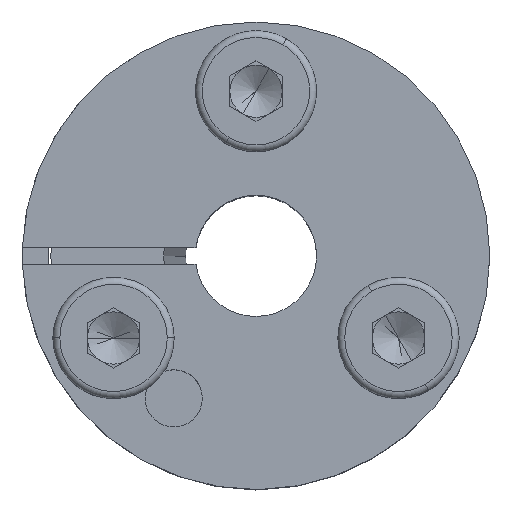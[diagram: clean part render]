
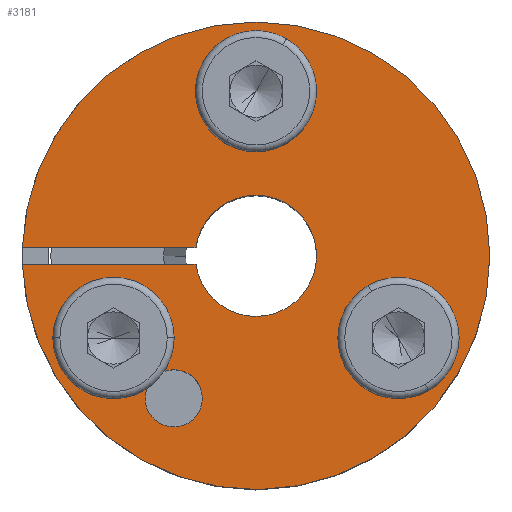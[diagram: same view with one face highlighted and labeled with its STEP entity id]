
A CAD part, top view. The second image highlights one B-rep face of the part: STEP entity #3181.
In plain terms, the highlighted planar face has unit normal (0, 0, 1).
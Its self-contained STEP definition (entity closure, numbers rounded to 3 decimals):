
#53 = AXIS2_PLACEMENT_3D ( 'NONE', #3878, #924, #4385 ) ;
#79 = CARTESIAN_POINT ( 'NONE',  ( -6.75, 11.691, 6.984 ) ) ;
#87 = DIRECTION ( 'NONE',  ( -0.5, 0.866, 0. ) ) ;
#165 = AXIS2_PLACEMENT_3D ( 'NONE', #3473, #521, #3954 ) ;
#189 = CIRCLE ( 'NONE', #808, 2.5 ) ;
#210 = VERTEX_POINT ( 'NONE', #3276 ) ;
#268 = CARTESIAN_POINT ( 'NONE',  ( -22., 0.5, 6.984 ) ) ;
#273 = ORIENTED_EDGE ( 'NONE', *, *, #4767, .F. ) ;
#319 = ORIENTED_EDGE ( 'NONE', *, *, #2082, .F. ) ;
#338 = ORIENTED_EDGE ( 'NONE', *, *, #829, .F. ) ;
#355 = CARTESIAN_POINT ( 'NONE',  ( -13.491, 0.5, 6.984 ) ) ;
#373 = AXIS2_PLACEMENT_3D ( 'NONE', #1455, #4913, #1938 ) ;
#471 = DIRECTION ( 'NONE',  ( -0.5, 0.866, 0. ) ) ;
#502 = CIRCLE ( 'NONE', #5465, 13.5 ) ;
#521 = DIRECTION ( 'NONE',  ( 0., 0., 1. ) ) ;
#747 = FACE_BOUND ( 'NONE', #2046, .T. ) ;
#808 = AXIS2_PLACEMENT_3D ( 'NONE', #4081, #1134, #4591 ) ;
#829 = EDGE_CURVE ( 'NONE', #210, #2972, #5618, .T. ) ;
#924 = DIRECTION ( 'NONE',  ( 0., 0., 1. ) ) ;
#962 = EDGE_CURVE ( 'NONE', #6328, #5812, #2056, .T. ) ;
#971 = AXIS2_PLACEMENT_3D ( 'NONE', #6378, #3437, #471 ) ;
#972 = CARTESIAN_POINT ( 'NONE',  ( 1.75, -3.031, 6.984 ) ) ;
#979 = DIRECTION ( 'NONE',  ( 0., 0., 1. ) ) ;
#1073 = CIRCLE ( 'NONE', #2154, 13.5 ) ;
#1113 = DIRECTION ( 'NONE',  ( 0., 0., 1. ) ) ;
#1134 = DIRECTION ( 'NONE',  ( 0., 0., 1. ) ) ;
#1136 = AXIS2_PLACEMENT_3D ( 'NONE', #1995, #5946, #2999 ) ;
#1153 = DIRECTION ( 'NONE',  ( 0., 0., 1. ) ) ;
#1235 = CIRCLE ( 'NONE', #165, 2.5 ) ;
#1312 = CARTESIAN_POINT ( 'NONE',  ( 0., 9.5, 6.984 ) ) ;
#1364 = DIRECTION ( 'NONE',  ( 0., 0., 1. ) ) ;
#1373 = CIRCLE ( 'NONE', #53, 1.65 ) ;
#1455 = CARTESIAN_POINT ( 'NONE',  ( 0., 0., 6.984 ) ) ;
#1486 = EDGE_LOOP ( 'NONE', ( #6023, #4660 ) ) ;
#1515 = CARTESIAN_POINT ( 'NONE',  ( -1.75, 3.031, 6.984 ) ) ;
#1617 = CARTESIAN_POINT ( 'NONE',  ( -3.464, 0.5, 6.984 ) ) ;
#1633 = CARTESIAN_POINT ( 'NONE',  ( -8.227, -4.75, 6.984 ) ) ;
#1793 = DIRECTION ( 'NONE',  ( 1., 0., 0. ) ) ;
#1805 = AXIS2_PLACEMENT_3D ( 'NONE', #2570, #6013, #3075 ) ;
#1854 = CARTESIAN_POINT ( 'NONE',  ( 9.477, -6.915, 6.984 ) ) ;
#1888 = VERTEX_POINT ( 'NONE', #1617 ) ;
#1891 = ORIENTED_EDGE ( 'NONE', *, *, #1979, .T. ) ;
#1933 = EDGE_CURVE ( 'NONE', #4611, #3937, #2110, .T. ) ;
#1938 = DIRECTION ( 'NONE',  ( -0.5, 0.866, 0. ) ) ;
#1979 = EDGE_CURVE ( 'NONE', #3775, #3958, #4419, .T. ) ;
#1995 = CARTESIAN_POINT ( 'NONE',  ( 0., 9.5, 6.984 ) ) ;
#2046 = EDGE_LOOP ( 'NONE', ( #4634, #3065 ) ) ;
#2050 = AXIS2_PLACEMENT_3D ( 'NONE', #1633, #5076, #2119 ) ;
#2056 = CIRCLE ( 'NONE', #2449, 3.5 ) ;
#2057 = CARTESIAN_POINT ( 'NONE',  ( -2., -0.5, 6.984 ) ) ;
#2082 = EDGE_CURVE ( 'NONE', #1888, #5140, #4886, .T. ) ;
#2110 = CIRCLE ( 'NONE', #2050, 2.5 ) ;
#2119 = DIRECTION ( 'NONE',  ( -0.5, 0.866, 0. ) ) ;
#2154 = AXIS2_PLACEMENT_3D ( 'NONE', #5998, #3056, #87 ) ;
#2169 = CARTESIAN_POINT ( 'NONE',  ( -3.925, -9.656, 6.984 ) ) ;
#2197 = EDGE_LOOP ( 'NONE', ( #338, #4956 ) ) ;
#2245 = CARTESIAN_POINT ( 'NONE',  ( 0., 0., 6.984 ) ) ;
#2379 = AXIS2_PLACEMENT_3D ( 'NONE', #4096, #1153, #4610 ) ;
#2431 = CIRCLE ( 'NONE', #971, 2.5 ) ;
#2449 = AXIS2_PLACEMENT_3D ( 'NONE', #3572, #1113, #2616 ) ;
#2466 = EDGE_LOOP ( 'NONE', ( #319, #5696, #4675, #5185, #2651, #1891, #4674, #3022 ) ) ;
#2550 = DIRECTION ( 'NONE',  ( 1., 0., 0. ) ) ;
#2570 = CARTESIAN_POINT ( 'NONE',  ( 0., 0., 6.984 ) ) ;
#2611 = ORIENTED_EDGE ( 'NONE', *, *, #6121, .F. ) ;
#2616 = DIRECTION ( 'NONE',  ( -0.5, 0.866, 0. ) ) ;
#2651 = ORIENTED_EDGE ( 'NONE', *, *, #6245, .F. ) ;
#2719 = VERTEX_POINT ( 'NONE', #4244 ) ;
#2756 = DIRECTION ( 'NONE',  ( -0.5, 0.866, 0. ) ) ;
#2757 = CIRCLE ( 'NONE', #3964, 2.5 ) ;
#2826 = VERTEX_POINT ( 'NONE', #1854 ) ;
#2872 = EDGE_CURVE ( 'NONE', #2719, #4900, #1373, .T. ) ;
#2949 = EDGE_CURVE ( 'NONE', #4097, #1888, #6163, .T. ) ;
#2972 = VERTEX_POINT ( 'NONE', #4407 ) ;
#2999 = DIRECTION ( 'NONE',  ( 1., 0., 0. ) ) ;
#3022 = ORIENTED_EDGE ( 'NONE', *, *, #3966, .T. ) ;
#3056 = DIRECTION ( 'NONE',  ( 0., 0., 1. ) ) ;
#3065 = ORIENTED_EDGE ( 'NONE', *, *, #4607, .F. ) ;
#3075 = DIRECTION ( 'NONE',  ( -0.5, 0.866, 0. ) ) ;
#3181 = ADVANCED_FACE ( 'NONE', ( #747, #5827, #4686, #4523, #3222 ), #4177, .T. ) ;
#3222 = FACE_BOUND ( 'NONE', #1486, .T. ) ;
#3238 = EDGE_CURVE ( 'NONE', #2972, #210, #2757, .T. ) ;
#3276 = CARTESIAN_POINT ( 'NONE',  ( -1.25, 11.665, 6.984 ) ) ;
#3437 = DIRECTION ( 'NONE',  ( 0., 0., 1. ) ) ;
#3440 = CARTESIAN_POINT ( 'NONE',  ( -6.977, -6.915, 6.984 ) ) ;
#3473 = CARTESIAN_POINT ( 'NONE',  ( 8.227, -4.75, 6.984 ) ) ;
#3572 = CARTESIAN_POINT ( 'NONE',  ( 0., 0., 6.984 ) ) ;
#3649 = AXIS2_PLACEMENT_3D ( 'NONE', #2245, #5709, #2756 ) ;
#3775 = VERTEX_POINT ( 'NONE', #6154 ) ;
#3870 = CIRCLE ( 'NONE', #1805, 3.5 ) ;
#3878 = CARTESIAN_POINT ( 'NONE',  ( -4.75, -8.227, 6.984 ) ) ;
#3919 = CARTESIAN_POINT ( 'NONE',  ( -4.75, -8.227, 6.984 ) ) ;
#3937 = VERTEX_POINT ( 'NONE', #6229 ) ;
#3954 = DIRECTION ( 'NONE',  ( -0.5, -0.866, 0. ) ) ;
#3958 = VERTEX_POINT ( 'NONE', #5252 ) ;
#3964 = AXIS2_PLACEMENT_3D ( 'NONE', #1312, #4761, #1793 ) ;
#3966 = EDGE_CURVE ( 'NONE', #4958, #5140, #502, .T. ) ;
#4081 = CARTESIAN_POINT ( 'NONE',  ( 8.227, -4.75, 6.984 ) ) ;
#4096 = CARTESIAN_POINT ( 'NONE',  ( 0., 0., 6.984 ) ) ;
#4097 = VERTEX_POINT ( 'NONE', #1515 ) ;
#4177 = PLANE ( 'NONE',  #3649 ) ;
#4244 = CARTESIAN_POINT ( 'NONE',  ( -5.575, -6.798, 6.984 ) ) ;
#4315 = CARTESIAN_POINT ( 'NONE',  ( 0., 0., 6.984 ) ) ;
#4361 = AXIS2_PLACEMENT_3D ( 'NONE', #3919, #979, #4425 ) ;
#4385 = DIRECTION ( 'NONE',  ( -0.5, 0.866, 0. ) ) ;
#4407 = CARTESIAN_POINT ( 'NONE',  ( 1.25, 7.335, 6.984 ) ) ;
#4419 = CIRCLE ( 'NONE', #2379, 13.5 ) ;
#4425 = DIRECTION ( 'NONE',  ( -0.5, 0.866, 0. ) ) ;
#4523 = FACE_BOUND ( 'NONE', #4597, .T. ) ;
#4591 = DIRECTION ( 'NONE',  ( -0.5, -0.866, 0. ) ) ;
#4597 = EDGE_LOOP ( 'NONE', ( #2611, #273 ) ) ;
#4607 = EDGE_CURVE ( 'NONE', #4900, #2719, #6131, .T. ) ;
#4610 = DIRECTION ( 'NONE',  ( -0.5, 0.866, 0. ) ) ;
#4611 = VERTEX_POINT ( 'NONE', #3440 ) ;
#4634 = ORIENTED_EDGE ( 'NONE', *, *, #2872, .F. ) ;
#4654 = CARTESIAN_POINT ( 'NONE',  ( 6.977, -2.585, 6.984 ) ) ;
#4660 = ORIENTED_EDGE ( 'NONE', *, *, #1933, .F. ) ;
#4674 = ORIENTED_EDGE ( 'NONE', *, *, #6238, .T. ) ;
#4675 = ORIENTED_EDGE ( 'NONE', *, *, #5962, .F. ) ;
#4686 = FACE_BOUND ( 'NONE', #2197, .T. ) ;
#4761 = DIRECTION ( 'NONE',  ( 0., 0., 1. ) ) ;
#4767 = EDGE_CURVE ( 'NONE', #2826, #5572, #189, .T. ) ;
#4811 = DIRECTION ( 'NONE',  ( -0.5, 0.866, 0. ) ) ;
#4854 = LINE ( 'NONE', #2057, #6002 ) ;
#4886 = LINE ( 'NONE', #268, #6031 ) ;
#4900 = VERTEX_POINT ( 'NONE', #2169 ) ;
#4913 = DIRECTION ( 'NONE',  ( 0., 0., 1. ) ) ;
#4956 = ORIENTED_EDGE ( 'NONE', *, *, #3238, .F. ) ;
#4958 = VERTEX_POINT ( 'NONE', #79 ) ;
#5052 = CARTESIAN_POINT ( 'NONE',  ( -3.464, -0.5, 6.984 ) ) ;
#5076 = DIRECTION ( 'NONE',  ( 0., 0., 1. ) ) ;
#5140 = VERTEX_POINT ( 'NONE', #355 ) ;
#5185 = ORIENTED_EDGE ( 'NONE', *, *, #962, .F. ) ;
#5252 = CARTESIAN_POINT ( 'NONE',  ( 6.75, -11.691, 6.984 ) ) ;
#5320 = EDGE_CURVE ( 'NONE', #3937, #4611, #2431, .T. ) ;
#5465 = AXIS2_PLACEMENT_3D ( 'NONE', #4315, #1364, #4811 ) ;
#5572 = VERTEX_POINT ( 'NONE', #4654 ) ;
#5618 = CIRCLE ( 'NONE', #1136, 2.5 ) ;
#5696 = ORIENTED_EDGE ( 'NONE', *, *, #2949, .F. ) ;
#5709 = DIRECTION ( 'NONE',  ( 0., 0., 1. ) ) ;
#5812 = VERTEX_POINT ( 'NONE', #972 ) ;
#5827 = FACE_OUTER_BOUND ( 'NONE', #2466, .T. ) ;
#5946 = DIRECTION ( 'NONE',  ( 0., 0., 1. ) ) ;
#5962 = EDGE_CURVE ( 'NONE', #5812, #4097, #3870, .T. ) ;
#5998 = CARTESIAN_POINT ( 'NONE',  ( 0., 0., 6.984 ) ) ;
#6002 = VECTOR ( 'NONE', #2550, 1000. ) ;
#6013 = DIRECTION ( 'NONE',  ( 0., 0., 1. ) ) ;
#6023 = ORIENTED_EDGE ( 'NONE', *, *, #5320, .F. ) ;
#6031 = VECTOR ( 'NONE', #6156, 1000. ) ;
#6121 = EDGE_CURVE ( 'NONE', #5572, #2826, #1235, .T. ) ;
#6131 = CIRCLE ( 'NONE', #4361, 1.65 ) ;
#6154 = CARTESIAN_POINT ( 'NONE',  ( -13.491, -0.5, 6.984 ) ) ;
#6156 = DIRECTION ( 'NONE',  ( -1., 0., 0. ) ) ;
#6163 = CIRCLE ( 'NONE', #373, 3.5 ) ;
#6229 = CARTESIAN_POINT ( 'NONE',  ( -9.477, -2.585, 6.984 ) ) ;
#6238 = EDGE_CURVE ( 'NONE', #3958, #4958, #1073, .T. ) ;
#6245 = EDGE_CURVE ( 'NONE', #3775, #6328, #4854, .T. ) ;
#6328 = VERTEX_POINT ( 'NONE', #5052 ) ;
#6378 = CARTESIAN_POINT ( 'NONE',  ( -8.227, -4.75, 6.984 ) ) ;
